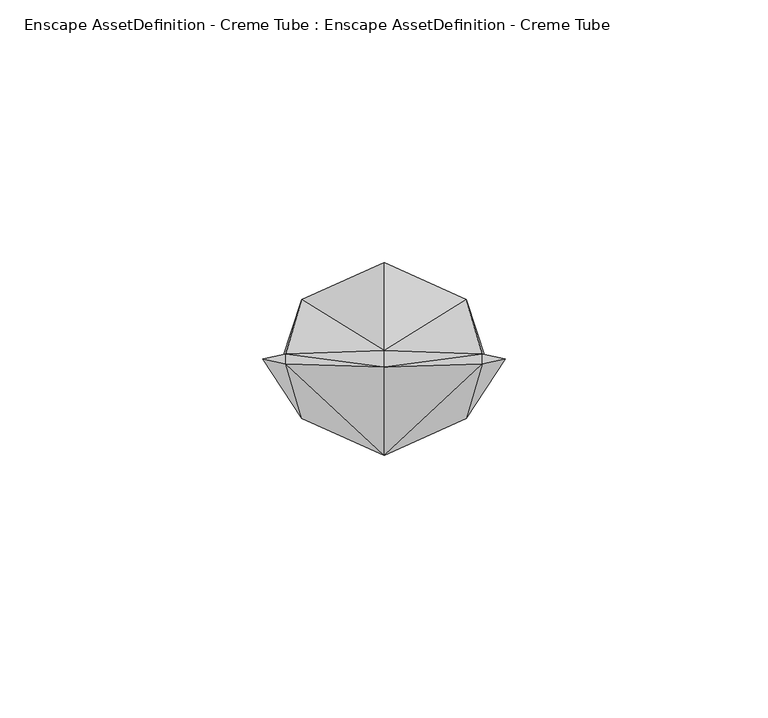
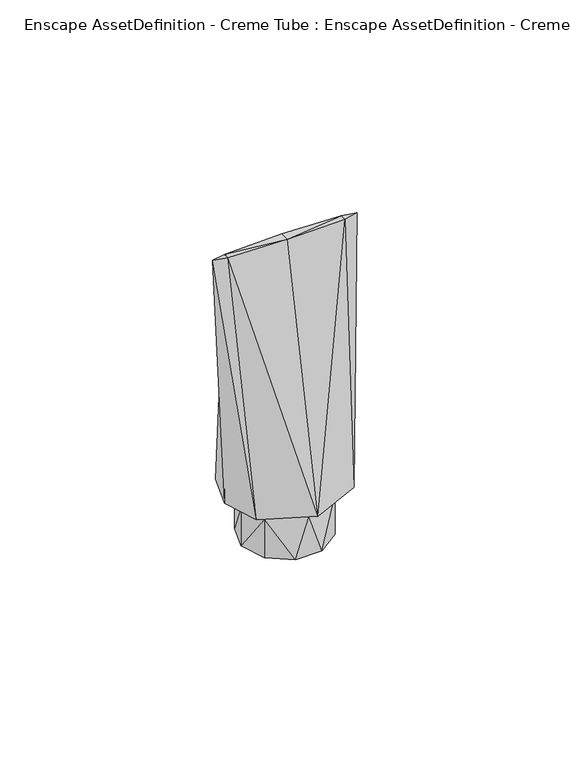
"""IFC4 building model written with IfcOpenShell, lengths in millimetres: geographic element geometry, Enscape AssetDefinition - Creme Tube : Enscape AssetDefinition - Creme Tube."""

from ifc_helpers import new_model, si_unit, origin, place, context, project, spatial, faceted_brep, source, transform, mapped, element, save


def enscape_assetdefinition_creme_tube_enscape_assetdefinition_f89e7deb(model_context):
    return source(origin(), model_context, "Body", "Brep", [
        faceted_brep([(15.6402104, 11.3630239, 16.306445), (14.0114576, 0.0, 13.0581986), (11.3356505, 8.2359491, 13.0581986), (19.3320755, 0.0, 16.306445), (11.3356505, -8.2359491, 13.0581986), (11.3356505, 8.2359491, 0.0), (14.0114576, 0.0, 0.0), (15.6402104, -11.3630239, 16.306445), (18.7036823, 0.9613102, 100.0000089), (23.1189448, 0.0, 100.0000089), (0.0, -18.3860622, 16.306445), (18.7036823, -0.9613102, 100.0000089), (0.0, 1.5558894, 100.0000089), (0.0, -1.5558894, 100.0000089), (-18.7036823, -0.9613102, 100.0000089), (-18.7036823, 0.9613102, 100.0000089), (0.0, 18.3860622, 16.306445), (-15.6402104, 11.3630239, 16.306445), (-19.3320755, 0.0, 16.306445), (-23.1189448, 0.0, 100.0000089), (-15.6402104, -11.3630239, 16.306445), (-14.0114576, 0.0, 13.0581986), (-11.3356505, -8.2359491, 13.0581986), (-11.3356505, 8.2359491, 13.0581986), (-11.3356505, 8.2359491, 0.0), (-14.0114576, 0.0, 0.0), (0.0, 13.3258998, 13.0581986), (-4.3299212, 13.3258998, 0.0), (-11.3356505, -8.2359491, 0.0), (-4.3299212, -13.3258998, 0.0), (4.3299212, 13.3258998, 0.0), (11.3356505, -8.2359491, 0.0), (4.3299212, -13.3258998, 0.0), (0.0, -13.3258998, 13.0581986)], [[[0, 1, 2]], [[1, 0, 3]], [[3, 4, 1]], [[5, 1, 6]], [[1, 5, 2]], [[4, 6, 1]], [[4, 3, 7]], [[8, 3, 0]], [[3, 8, 9]], [[9, 7, 3]], [[10, 4, 7]], [[11, 10, 7]], [[7, 9, 11]], [[8, 11, 9]], [[0, 12, 8]], [[13, 8, 12]], [[8, 13, 11]], [[10, 11, 13]], [[14, 10, 13]], [[15, 13, 12]], [[13, 15, 14]], [[12, 0, 16]], [[12, 17, 15]], [[17, 12, 16]], [[15, 18, 19]], [[18, 15, 17]], [[14, 15, 19]], [[10, 14, 20]], [[19, 20, 14]], [[20, 19, 18]], [[17, 21, 18]], [[18, 22, 20]], [[22, 18, 21]], [[21, 17, 23]], [[16, 23, 17]], [[24, 21, 23]], [[21, 24, 25]], [[25, 22, 21]], [[23, 16, 26]], [[27, 23, 26]], [[23, 27, 24]], [[27, 25, 24]], [[22, 25, 28]], [[25, 29, 28]], [[5, 25, 27]], [[5, 29, 25]], [[27, 26, 30]], [[5, 27, 30]], [[16, 2, 26]], [[2, 30, 26]], [[30, 2, 5]], [[5, 6, 31]], [[5, 31, 29]], [[6, 4, 31]], [[4, 32, 31]], [[29, 31, 32]], [[4, 10, 33]], [[32, 4, 33]], [[32, 33, 29]], [[10, 22, 33]], [[22, 29, 33]], [[22, 10, 20]], [[29, 22, 28]], [[2, 16, 0]]]),
    ])


if __name__ == "__main__":
    model = new_model("IFC4")
    model_context = context("Model", 3, world=origin())
    ifc_project = project(units=[si_unit("LENGTHUNIT", "METRE", prefix="MILLI")], contexts=[model_context])
    site = spatial("IfcSite", under=ifc_project)
    building = spatial("IfcBuilding", under=site)
    placement = place(None, origin())
    enscape_assetdefinition_creme_tube_enscape_assetdefinition_shape = enscape_assetdefinition_creme_tube_enscape_assetdefinition_f89e7deb(model_context)
    element("IfcGeographicElement", 1, ObjectType="Enscape AssetDefinition - Creme Tube : Enscape AssetDefinition - Creme Tube", at=placement, inside=building, context=model_context, shape_type="MappedRepresentation", body=[
        mapped(enscape_assetdefinition_creme_tube_enscape_assetdefinition_shape, transform((0.0, 0.0, 0.0), x_axis=(1.0, 0.0, 0.0), y_axis=(0.0, 1.0, 0.0), z_axis=(0.0, 0.0, 1.0))),
    ])
    save(model, "model.ifc")
